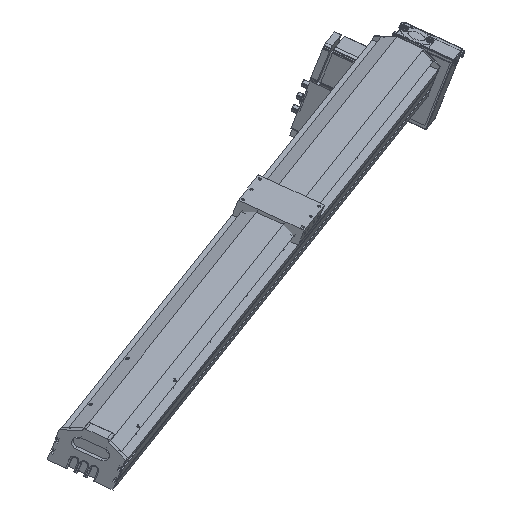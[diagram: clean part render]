
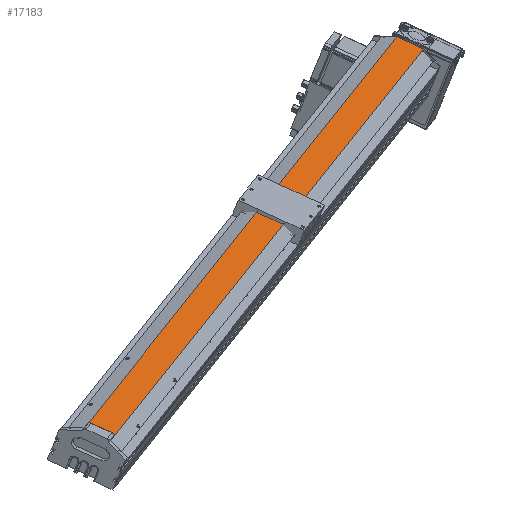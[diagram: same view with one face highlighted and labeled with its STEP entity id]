
A CAD part, top view. The second image highlights one B-rep face of the part: STEP entity #17183.
In plain terms, the highlighted planar face has unit normal (0.346, 0.853, 0.391) as drawn and (0, 1, 0) by its records, which use the part's own axes.
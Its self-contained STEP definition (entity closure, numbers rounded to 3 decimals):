
#461 = PLANE ( 'NONE',  #480 ) ;
#465 = DIRECTION ( 'NONE',  ( 0., 0., -1. ) ) ;
#473 = DIRECTION ( 'NONE',  ( 0., -1., 0. ) ) ;
#474 = CARTESIAN_POINT ( 'NONE',  ( 20., 61.75, 1700. ) ) ;
#480 = AXIS2_PLACEMENT_3D ( 'NONE', #474, #473, #465 ) ;
#685 = VECTOR ( 'NONE', #723, 1000. ) ;
#693 = CARTESIAN_POINT ( 'NONE',  ( -20., 61.75, 0. ) ) ;
#712 = LINE ( 'NONE', #724, #685 ) ;
#716 = FACE_OUTER_BOUND ( 'NONE', #17154, .T. ) ;
#722 = CARTESIAN_POINT ( 'NONE',  ( -20., 61.75, 1700. ) ) ;
#723 = DIRECTION ( 'NONE',  ( 0., 0., -1. ) ) ;
#724 = CARTESIAN_POINT ( 'NONE',  ( -20., 61.75, 1700. ) ) ;
#737 = CARTESIAN_POINT ( 'NONE',  ( 20., 61.75, 1700. ) ) ;
#754 = DIRECTION ( 'NONE',  ( 0., 0., -1. ) ) ;
#755 = VECTOR ( 'NONE', #754, 1000. ) ;
#756 = CARTESIAN_POINT ( 'NONE',  ( 20., 61.75, 1700. ) ) ;
#758 = LINE ( 'NONE', #756, #755 ) ;
#765 = DIRECTION ( 'NONE',  ( -1., 0., 0. ) ) ;
#766 = VECTOR ( 'NONE', #765, 1000. ) ;
#767 = CARTESIAN_POINT ( 'NONE',  ( 20., 61.75, 0. ) ) ;
#768 = LINE ( 'NONE', #767, #766 ) ;
#780 = LINE ( 'NONE', #831, #827 ) ;
#827 = VECTOR ( 'NONE', #830, 1000. ) ;
#830 = DIRECTION ( 'NONE',  ( -1., 0., 0. ) ) ;
#831 = CARTESIAN_POINT ( 'NONE',  ( 20., 61.75, 1700. ) ) ;
#2054 = CARTESIAN_POINT ( 'NONE',  ( 20., 61.75, 5.114 ) ) ;
#2115 = CARTESIAN_POINT ( 'NONE',  ( 20., 61.75, 0. ) ) ;
#2117 = DIRECTION ( 'NONE',  ( 0., 0., -1. ) ) ;
#2118 = VECTOR ( 'NONE', #2117, 1000. ) ;
#2120 = CARTESIAN_POINT ( 'NONE',  ( 20., 61.75, 1700. ) ) ;
#2121 = LINE ( 'NONE', #2120, #2118 ) ;
#17154 = EDGE_LOOP ( 'NONE', ( #17175, #17177, #17174, #17190, #17173 ) ) ;
#17167 = VERTEX_POINT ( 'NONE', #693 ) ;
#17171 = VERTEX_POINT ( 'NONE', #737 ) ;
#17173 = ORIENTED_EDGE ( 'NONE', *, *, #25411, .T. ) ;
#17174 = ORIENTED_EDGE ( 'NONE', *, *, #17218, .F. ) ;
#17175 = ORIENTED_EDGE ( 'NONE', *, *, #17185, .T. ) ;
#17177 = ORIENTED_EDGE ( 'NONE', *, *, #17184, .F. ) ;
#17182 = VERTEX_POINT ( 'NONE', #722 ) ;
#17183 = ADVANCED_FACE ( 'NONE', ( #716 ), #461, .F. ) ;
#17184 = EDGE_CURVE ( 'NONE', #17182, #17167, #712, .T. ) ;
#17185 = EDGE_CURVE ( 'NONE', #25416, #17167, #768, .T. ) ;
#17189 = EDGE_CURVE ( 'NONE', #17171, #25403, #758, .T. ) ;
#17190 = ORIENTED_EDGE ( 'NONE', *, *, #17189, .T. ) ;
#17218 = EDGE_CURVE ( 'NONE', #17171, #17182, #780, .T. ) ;
#25403 = VERTEX_POINT ( 'NONE', #2054 ) ;
#25411 = EDGE_CURVE ( 'NONE', #25403, #25416, #2121, .T. ) ;
#25416 = VERTEX_POINT ( 'NONE', #2115 ) ;
